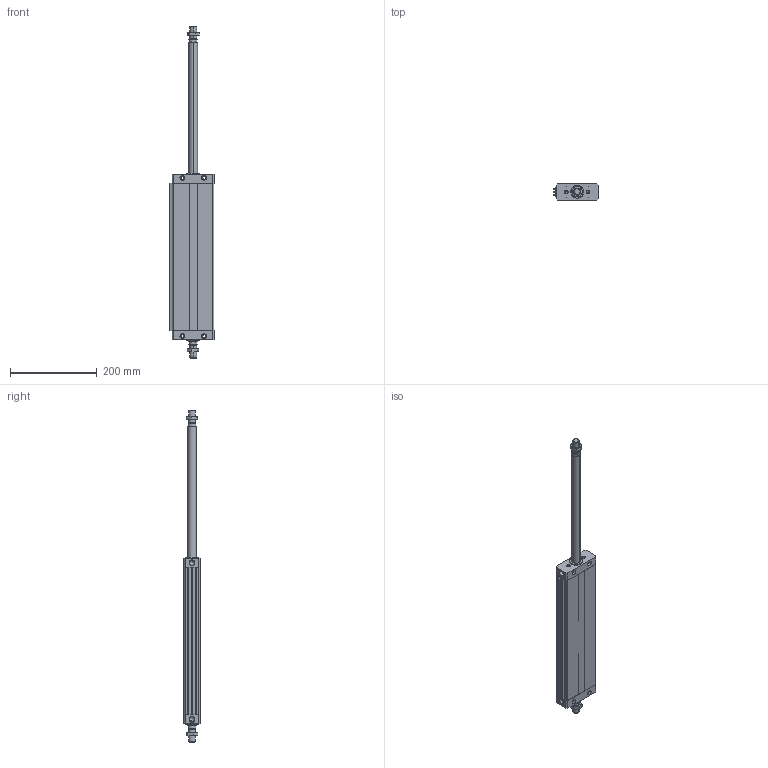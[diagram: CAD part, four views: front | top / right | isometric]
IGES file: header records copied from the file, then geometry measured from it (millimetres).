
Global section: file name: No Iges File Name specified; native system: Autodesk Inventor 2011; preprocessor: AutoDesk Inventor Iges Exporter R2011; author: airolcr1; date: 20101213.153424; units: millimetre
Bounding box: 102.5 x 38 x 766 mm (x, y, z)
Volume: 964702.7 mm3; surface area: 266859.4 mm2
Topology: 6 solids, 6 shells, 280 faces, 664 edges, 396 vertices
Faces by surface type: bspline 114, plane 98, cone 36, cylinder 18, revolution 14
